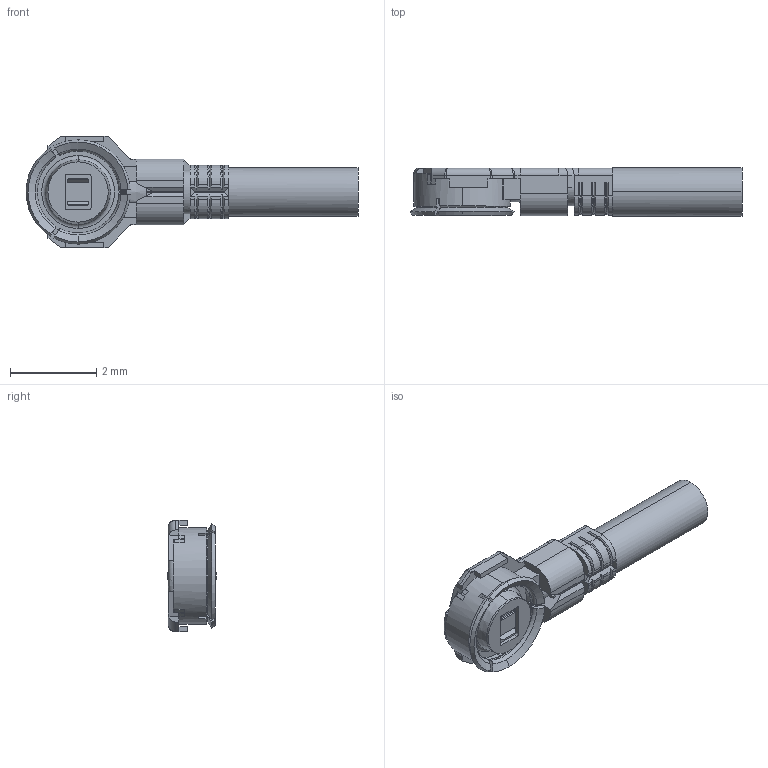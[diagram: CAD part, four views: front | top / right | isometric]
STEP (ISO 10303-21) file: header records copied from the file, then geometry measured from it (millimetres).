
FILE_DESCRIPTION (( 'STEP AP203' ), '1' );
FILE_NAME ('20428C PLUG STEP R3 ALL.STEP', '2018-12-12T05:14:28', ( '' ), ( '' ), 'SwSTEP 2.0', 'SolidWorks 2017', '' );
FILE_SCHEMA (( 'CONFIG_CONTROL_DESIGN' ));
Length unit declared in the file: millimetre
Products named in the file (1): 20428C PLUG STEP R3 ALL
Bounding box: 7.71 x 1.13 x 2.6 mm (x, y, z)
Volume: 10.1 mm3; surface area: 48.6 mm2
Topology: 1 solids, 2 shells, 356 faces, 923 edges, 577 vertices
Faces by surface type: plane 182, cylinder 89, cone 42, torus 27, bspline 16
Entity records: 11278 total; most frequent: CARTESIAN_POINT 2721, ORIENTED_EDGE 1834, DIRECTION 1710, EDGE_CURVE 917, VERTEX_POINT 577, AXIS2_PLACEMENT_3D 576, VECTOR 558, LINE 558
